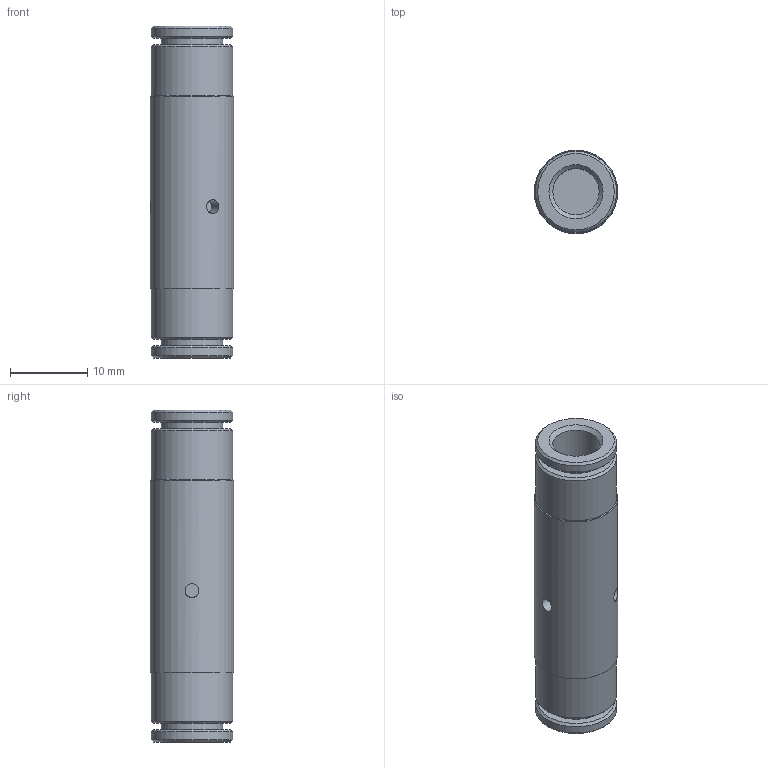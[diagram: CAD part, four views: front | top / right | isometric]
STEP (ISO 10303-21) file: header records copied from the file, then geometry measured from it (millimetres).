
FILE_DESCRIPTION(/* description */ ('VALVOLA SCAR.RAP.(IN T.6 OUT T.6)LINEA'),/* implementation_level */ '2;1');
FILE_NAME(/* name */ 'I:\Area Tecnica\Disegni\VARIE-3D\Componenti\600\6_02_##_##_L\6_02_06_06_L.stp',/* time_stamp */ '2017-01-20T13:59:09+01:00',/* author */ ('maniean1'),/* organization */ ('Pneumax S.p.A.'),/* preprocessor_version */ 'ST-DEVELOPER v15.2',/* originating_system */ 'Autodesk Inventor 2014',/* authorisation */ '');
FILE_SCHEMA (('AUTOMOTIVE_DESIGN { 1 0 10303 214 3 1 1 }'));
Length unit declared in the file: millimetre
Products named in the file (1): 6_02_06_06_L
Bounding box: 10.8 x 10.8 x 43 mm (x, y, z)
Volume: 3083.9 mm3; surface area: 2307.1 mm2
Topology: 1 solids, 3 shells, 40 faces, 64 edges, 41 vertices
Faces by surface type: plane 17, cylinder 14, cone 9
Full cylindrical faces by diameter (mm): 1.8 x3, 6 x4, 8 x2, 10.5 x4, 10.8 x1
Entity records: 884 total; most frequent: CARTESIAN_POINT 214, DIRECTION 150, AXIS2_PLACEMENT_3D 75, EDGE_LOOP 74, ORIENTED_EDGE 74, ADVANCED_FACE 40, FACE_BOUND 39, VERTEX_POINT 37
